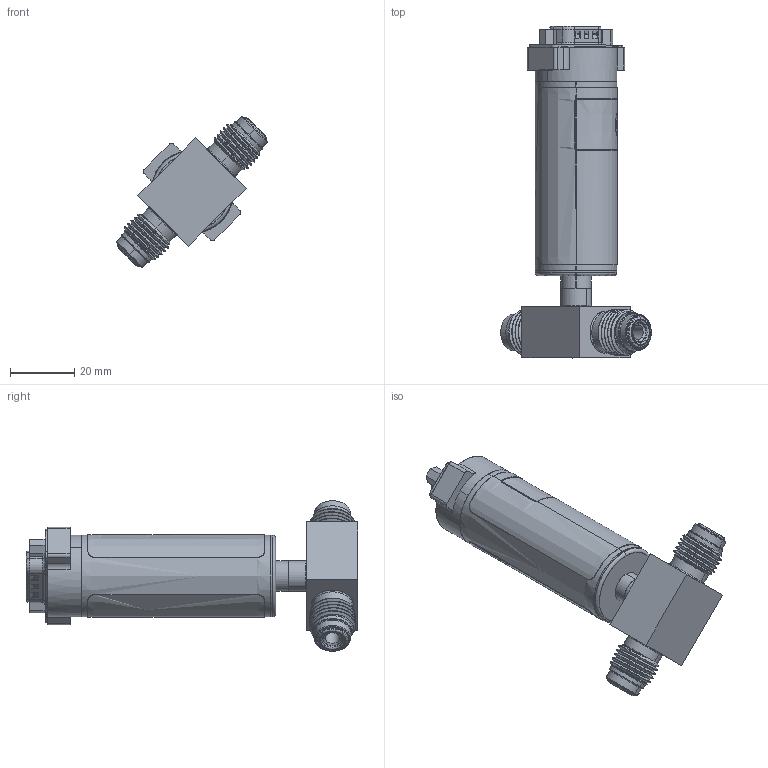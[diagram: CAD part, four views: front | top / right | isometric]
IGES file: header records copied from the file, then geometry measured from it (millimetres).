
Start section: SolidWorks IGES file using analytic representation for surfaces
Global section: file name: R:\Brooks Instrument\25-0024 SSII CAD File Generation\Client Files\SSII CAD Models for Website\CAD for Brooks Website\Example\GSF\GSF-XXXXXX-K-XXX-VM\IGES\GSF-XXXXXX-K-XXX-VM.IGS; native system: SolidWorks 2023; preprocessor: SolidWorks 2023; author: dgoddard; date: 250618.145058; units: inch
Bounding box: 46.82 x 103.29 x 46.82 mm (x, y, z)
Surface area: 20157.8 mm2 (no closed solid volume)
Topology: 0 solids, 0 shells, 644 faces, 6750 edges, 6746 vertices
Faces by surface type: bspline 350, revolution 294
